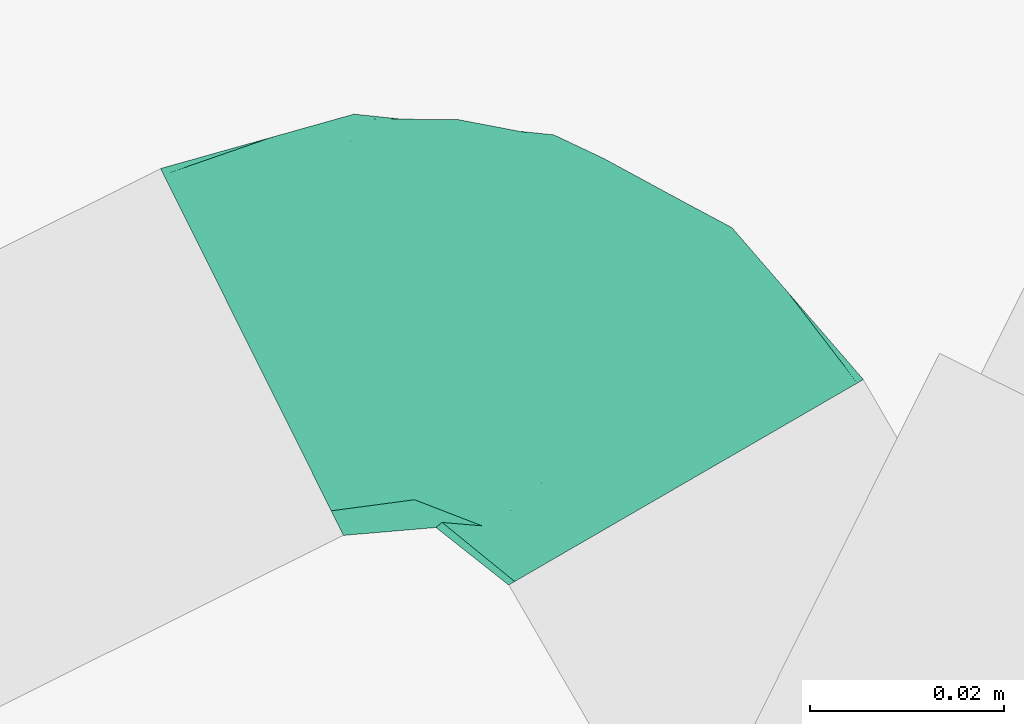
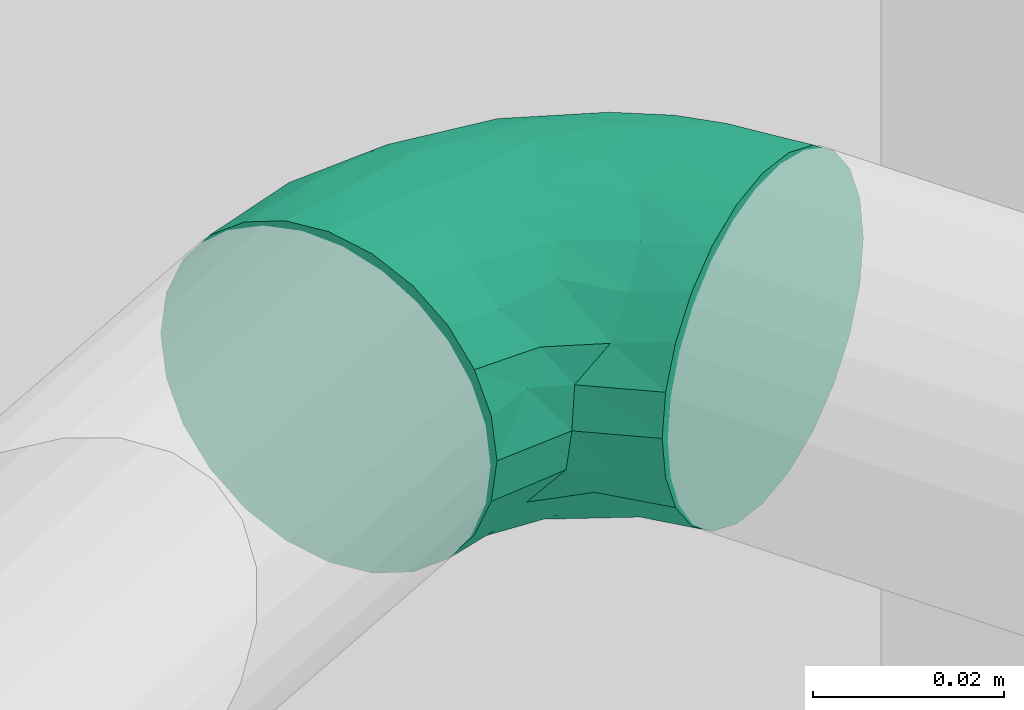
# One storey, part 33 of 34: 1 flow fitting.
"""IFC2X3 building model written with IfcOpenShell, lengths in metres."""

from ifc_helpers import new_model, entity, si_unit, converted_unit, derived_unit, direction, frame, origin, place, context, subcontext, project, spatial, faceted_brep, source, transform, mapped, type_object, type_shapes, element, save


model = new_model("IFC2X3")

# Units and contexts
model_context = context("Model", 3, precision=1e-05, world=origin(), true_north=direction((0.894925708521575, 0.446215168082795)))
context_of_model = context(None, 3, precision=1e-05, world=origin(), true_north=direction((0.894925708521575, 0.446215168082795)))
body_context = subcontext(model_context, "Body", "Model", "MODEL_VIEW")
ifc_project = project(units=[si_unit("LENGTHUNIT", "METRE"), si_unit("AREAUNIT", "SQUARE_METRE"), si_unit("VOLUMEUNIT", "CUBIC_METRE"), converted_unit("PLANEANGLEUNIT", "DEGREE", entity("IfcRatioMeasure", 0.0174532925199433), si_unit("PLANEANGLEUNIT", "RADIAN"), dimensions=[0, 0, 0, 0, 0, 0, 0]), si_unit("MASSUNIT", "GRAM", prefix="KILO"), si_unit("TIMEUNIT", "SECOND"), si_unit("FREQUENCYUNIT", "HERTZ"), si_unit("THERMODYNAMICTEMPERATUREUNIT", "DEGREE_CELSIUS"), derived_unit("THERMALTRANSMITTANCEUNIT", [(si_unit("MASSUNIT", "GRAM", prefix="KILO"), 1), (si_unit("THERMODYNAMICTEMPERATUREUNIT", "KELVIN"), -1), (si_unit("TIMEUNIT", "SECOND"), -3)]), derived_unit("VOLUMETRICFLOWRATEUNIT", [(si_unit("LENGTHUNIT", "METRE"), 3), (si_unit("TIMEUNIT", "SECOND"), -1)]), si_unit("ELECTRICCURRENTUNIT", "AMPERE"), si_unit("ELECTRICVOLTAGEUNIT", "VOLT"), si_unit("POWERUNIT", "WATT"), si_unit("FORCEUNIT", "NEWTON", prefix="KILO"), si_unit("ILLUMINANCEUNIT", "LUX"), si_unit("LUMINOUSFLUXUNIT", "LUMEN"), si_unit("LUMINOUSINTENSITYUNIT", "CANDELA"), si_unit("PRESSUREUNIT", "PASCAL")], contexts=[model_context, context_of_model])

# Site, building, storey
site_placement = place(None, frame((218.228324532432, 584.720189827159, 0.0), z_axis=(0.0, 0.0, 1.0), x_axis=(0.446215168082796, 0.894925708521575, 0.0)))
site = spatial("IfcSite", under=ifc_project, at=site_placement, Name="Default", CompositionType="ELEMENT")
building_placement = place(site_placement, origin())
building = spatial("IfcBuilding", under=site, at=building_placement, CompositionType="ELEMENT")
storey_placement = place(building_placement, frame((0.0, 0.0, 8.61)))
storey = spatial("IfcBuildingStorey", under=building, at=storey_placement, Name="2 - Piano Secondo", CompositionType="ELEMENT", Elevation=8.61)

# Flow fitting
pipe_fitting_type = type_object("IfcPipeFittingType", Name="Standard", PredefinedType="NOTDEFINED")
shared_shape = source(origin(), body_context, "Body", "Brep", [
    faceted_brep([(-0.0319999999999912, 0.00546108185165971, -0.0203810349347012), (-0.0319999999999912, 0.0, -0.0211000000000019), (-0.0319999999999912, -0.00546108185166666, -0.0203810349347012), (-0.0319999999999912, -0.0105500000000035, -0.0182731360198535), (-0.0319999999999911, -0.0149199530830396, -0.0149199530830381), (-0.0319999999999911, -0.0182731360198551, -0.0105500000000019), (-0.0319999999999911, -0.0203810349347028, -0.00546108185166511), (-0.0319999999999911, -0.0211000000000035, 0.0), (-0.0319999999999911, -0.0203810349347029, 0.00546108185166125), (-0.0319999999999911, -0.0182731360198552, 0.0105499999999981), (-0.0319999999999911, -0.0149199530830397, 0.0149199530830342), (-0.0319999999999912, -0.0105500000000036, 0.0182731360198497), (-0.0319999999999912, -0.00546108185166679, 0.0203810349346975), (-0.0319999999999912, 0.0, 0.0210999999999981), (-0.0319999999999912, 0.00546108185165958, 0.0203810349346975), (-0.0319999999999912, 0.0105499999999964, 0.0182731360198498), (-0.0319999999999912, 0.0149199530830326, 0.0149199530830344), (-0.0319999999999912, 0.0182731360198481, 0.0105499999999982), (-0.0319999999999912, 0.0203810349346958, 0.00546108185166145), (-0.0319999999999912, 0.0210999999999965, 0.0), (-0.0319999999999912, 0.0203810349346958, -0.00546108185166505), (-0.0319999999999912, 0.0182731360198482, -0.0105500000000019), (-0.0319999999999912, 0.0149199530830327, -0.014919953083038), (-0.0319999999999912, 0.0105499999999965, -0.0182731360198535), (0.00199613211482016, 0.0319376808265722, -0.0211000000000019), (-0.00345431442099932, 0.0322783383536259, -0.0203810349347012), (-0.00853332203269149, 0.0325957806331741, -0.0182731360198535), (-0.0128947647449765, 0.0328683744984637, -0.014919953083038), (-0.0162414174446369, 0.0330775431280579, -0.0105500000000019), (-0.0183452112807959, 0.0332090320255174, -0.00546108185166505), (-0.0190627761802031, 0.033253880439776, 0.0), (-0.0183452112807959, 0.0332090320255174, 0.00546108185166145), (-0.0162414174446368, 0.0330775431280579, 0.0105499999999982), (-0.0128947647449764, 0.0328683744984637, 0.0149199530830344), (-0.00853332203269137, 0.0325957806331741, 0.0182731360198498), (-0.00345431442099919, 0.0322783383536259, 0.0203810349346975), (0.00199613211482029, 0.0319376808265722, 0.0210999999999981), (0.00744657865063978, 0.0315970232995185, 0.0203810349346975), (0.0125255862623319, 0.0312795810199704, 0.0182731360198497), (0.0168870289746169, 0.0310069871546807, 0.0149199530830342), (0.0202336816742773, 0.0307978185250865, 0.0105499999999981), (0.0223374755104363, 0.030666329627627, 0.00546108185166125), (0.0230550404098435, 0.0306214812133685, 0.0), (0.0223374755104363, 0.030666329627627, -0.00546108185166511), (0.0202336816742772, 0.0307978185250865, -0.0105500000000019), (0.0168870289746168, 0.0310069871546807, -0.0149199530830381), (0.0125255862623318, 0.0312795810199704, -0.0182731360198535), (0.00744657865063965, 0.0315970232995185, -0.0203810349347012), (-0.0231105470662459, -0.0167746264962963, 0.0117195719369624), (-0.0202205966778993, -0.0127924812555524, 0.0155606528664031), (-0.0218440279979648, -0.0191621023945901, 0.0), (-0.0205793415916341, -0.0189043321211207, 0.00635068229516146), (-0.0138861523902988, -0.016866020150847, 0.00674931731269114), (0.011746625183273, 0.0032750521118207, 0.00822294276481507), (0.00500188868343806, -0.00384616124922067, 0.00935833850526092), (0.00751533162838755, -0.00365668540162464, 0.00471988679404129), (0.0140289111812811, 0.0193832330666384, 0.0155606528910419), (0.0092276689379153, 0.00715376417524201, 0.0146660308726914), (0.0157005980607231, 0.0122511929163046, 0.0103480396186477), (-0.0227027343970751, -0.00840549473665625, 0.0188848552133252), (-0.0234420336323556, 0.00241157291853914, 0.0210614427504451), (-0.0217659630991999, 0.00822713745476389, 0.0201456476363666), (-0.01131964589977, 0.0253838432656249, 0.0176022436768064), (-0.00726986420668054, -0.0144805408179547, 0.00532536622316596), (-0.00295923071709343, -0.0116828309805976, 0.0), (0.00110783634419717, -0.00936134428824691, 0.00481616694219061), (-0.0159447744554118, -0.00925015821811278, 0.0172647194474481), (-0.0246282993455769, 0.0128810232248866, 0.0176022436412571), (-0.0254965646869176, 0.0170522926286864, 0.0139262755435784), (-0.0238100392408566, -0.00318990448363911, 0.0207018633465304), (-0.0229942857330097, 0.0238023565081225, 0.00534942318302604), (-0.0253606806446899, 0.0204139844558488, 0.00941139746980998), (-0.00215389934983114, 0.00845491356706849, 0.0204329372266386), (-0.00541541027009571, 0.00145997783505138, 0.0195225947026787), (0.00174822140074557, 0.00677998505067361, 0.0189230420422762), (-0.0187661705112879, 0.0199756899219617, 0.0151031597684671), (-0.0195462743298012, 0.0250908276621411, 0.00974723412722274), (-0.0172343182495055, 0.0129493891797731, 0.0193996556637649), (-0.0115919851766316, 0.0123391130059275, 0.0206661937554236), (-0.0049067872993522, 0.0159282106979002, 0.0210493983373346), (-0.00811578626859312, 0.00643052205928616, 0.0209559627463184), (-0.0132067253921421, -0.0149058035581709, 0.0103480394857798), (-0.00347917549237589, -0.0103041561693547, 0.00981039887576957), (-0.00771544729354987, -0.0087634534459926, 0.0146660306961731), (-0.00685337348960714, 0.0222367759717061, 0.0201456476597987), (-0.000944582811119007, 0.0235468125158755, 0.0210614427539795), (0.0181835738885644, 0.0220191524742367, 0.011719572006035), (0.0201512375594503, 0.019360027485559, 0.00635068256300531), (0.00466894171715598, 0.0235646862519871, 0.0207018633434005), (-0.0124693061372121, 0.0182076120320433, 0.0191281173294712), (0.017919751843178, 0.0105908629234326, 0.0), (0.0204873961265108, 0.0206061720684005, 0.0), (0.000283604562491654, -0.00466708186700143, 0.0133278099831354), (8.57304771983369e-05, -9.12567316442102e-05, 0.0167750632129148), (-0.0156077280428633, 0.0058877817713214, 0.0210489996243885), (0.00980530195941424, 0.0221341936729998, 0.0188848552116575), (0.00710821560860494, 0.0135326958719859, 0.018521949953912), (-0.0196044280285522, 0.027806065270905, 0.00617082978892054), (-0.0154286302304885, 0.0265106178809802, 0.0139262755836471), (-0.0231246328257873, 0.0246150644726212, 0.0), (0.0164149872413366, 0.00900792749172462, 0.00519211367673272), (-0.0104003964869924, -0.00521574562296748, 0.0181485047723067), (0.00629836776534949, 0.000564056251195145, 0.0127411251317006), (0.0107544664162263, 0.00506386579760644, 0.0116404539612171), (0.00243045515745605, 0.0143498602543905, 0.0203400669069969), (-0.0144735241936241, -0.00153059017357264, 0.0203400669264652), (-0.0171256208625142, 0.0171188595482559, 0.0176801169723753), (-0.0116880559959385, -0.0172242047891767, 0.0), (0.00576959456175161, -0.0061414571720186, 0.0), (0.0118446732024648, 0.002224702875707, 0.0), (0.0121339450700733, 0.00167471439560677, 0.00418745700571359), (-0.0202205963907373, -0.0127924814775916, -0.0155606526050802), (-0.0234420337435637, 0.00241157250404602, -0.0210614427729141), (-0.0217659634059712, 0.0082271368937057, -0.0201456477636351), (-0.0238226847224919, 0.0210733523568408, -0.00974723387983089), (-0.0187661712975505, 0.0199756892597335, -0.0151031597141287), (-0.0254965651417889, 0.0170522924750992, -0.013926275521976), (-0.0113196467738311, 0.0253838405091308, -0.017602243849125), (-0.00685337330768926, 0.0222367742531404, -0.0201456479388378), (-0.000944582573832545, 0.0235468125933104, -0.0210614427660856), (-0.0265290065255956, 0.0213007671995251, -0.00617082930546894), (0.0075153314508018, -0.00365668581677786, -0.00471988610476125), (0.00110783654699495, -0.00936134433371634, -0.00481616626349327), (-0.00830408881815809, 0.0026771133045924, -0.0204329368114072), (-0.00111932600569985, 0.00549593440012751, -0.0195225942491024), (-0.00687583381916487, -0.00132188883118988, -0.0189230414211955), (-0.0246282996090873, 0.0128810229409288, -0.0176022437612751), (-0.020579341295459, -0.0189043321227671, -0.00635068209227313), (-0.0231105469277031, -0.0167746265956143, -0.0117195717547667), (-0.00726986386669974, -0.0144805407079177, -0.00532536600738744), (-0.00347917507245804, -0.0103041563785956, -0.00981039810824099), (-0.0135423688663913, -0.0174469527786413, -0.00431479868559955), (-0.00771544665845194, -0.00876345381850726, -0.014666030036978), (8.57313633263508e-05, -9.12573533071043e-05, -0.0167750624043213), (0.000283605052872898, -0.00466708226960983, -0.0133278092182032), (0.0201512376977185, 0.0193600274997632, -0.00635068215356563), (-0.0227027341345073, -0.00840549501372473, -0.0188848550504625), (-0.0238100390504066, -0.00318990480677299, -0.0207018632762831), (-0.0132067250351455, -0.0149058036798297, -0.0103480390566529), (-0.0118491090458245, 0.018008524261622, -0.0193996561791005), (-0.0115919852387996, 0.0123391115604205, -0.0206661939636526), (-0.0223216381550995, 0.0244342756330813, -0.00534942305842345), (-0.0139497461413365, -0.00625021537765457, -0.0185219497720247), (-0.0173943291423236, 0.0135807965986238, -0.0191281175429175), (-0.0187922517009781, 0.0265846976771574, -0.00941139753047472), (-0.0154286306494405, 0.0265106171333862, -0.0139262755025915), (0.0181835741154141, 0.0220191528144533, -0.0117195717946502), (0.0140289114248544, 0.0193832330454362, -0.0155606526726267), (0.0102267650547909, 0.0153367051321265, -0.0172647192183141), (0.00980530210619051, 0.0221341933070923, -0.0188848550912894), (0.00466894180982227, 0.023564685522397, -0.0207018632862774), (-0.0155911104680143, 0.00589081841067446, -0.0210493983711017), (-0.00591174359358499, 0.00850110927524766, -0.0209559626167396), (0.0157005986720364, 0.0122511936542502, -0.0103480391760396), (-0.00490271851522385, 0.0159446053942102, -0.0210489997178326), (0.00922766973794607, 0.00715376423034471, -0.0146660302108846), (0.0164149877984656, 0.00900792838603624, -0.00519211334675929), (0.00500188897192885, -0.00384616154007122, -0.0093583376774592), (0.00629836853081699, 0.000564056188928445, -0.0127411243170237), (0.0107544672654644, 0.00506386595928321, -0.0116404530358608), (0.0117466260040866, 0.0032750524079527, -0.00822294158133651), (0.00585435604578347, 0.0100547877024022, -0.018148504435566), (-0.0144735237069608, -0.00153059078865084, -0.020340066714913), (0.00243045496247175, 0.0143498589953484, -0.0203400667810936), (-0.0160172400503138, 0.0181601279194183, -0.0176801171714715), (0.0121339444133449, 0.00167471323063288, -0.00418745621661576)], [[[0, 1, 2, 3, 4, 5, 6, 7, 8, 9, 10, 11, 12, 13, 14, 15, 16, 17, 18, 19, 20, 21, 22, 23]], [[24, 25, 26, 27, 28, 29, 30, 31, 32, 33, 34, 35, 36, 37, 38, 39, 40, 41, 42, 43, 44, 45, 46, 47]], [[10, 48, 49]], [[8, 7, 50]], [[48, 51, 52]], [[53, 54, 55]], [[48, 10, 9]], [[8, 51, 9]], [[56, 57, 58]], [[49, 11, 10]], [[49, 59, 11]], [[14, 60, 61]], [[34, 33, 62]], [[63, 64, 65]], [[66, 59, 49]], [[67, 16, 15]], [[56, 39, 38]], [[68, 17, 16]], [[69, 13, 12]], [[67, 15, 61]], [[14, 13, 60]], [[70, 18, 71]], [[72, 73, 74]], [[19, 18, 70]], [[75, 76, 71]], [[77, 61, 78]], [[14, 61, 15]], [[79, 78, 80]], [[81, 82, 83]], [[84, 79, 85]], [[58, 86, 56]], [[85, 35, 84]], [[40, 87, 41]], [[37, 36, 88]], [[84, 62, 89]], [[87, 90, 91]], [[92, 93, 83]], [[39, 86, 40]], [[61, 60, 94]], [[87, 40, 86]], [[82, 54, 92]], [[95, 88, 96]], [[11, 59, 12]], [[97, 32, 31]], [[63, 82, 81]], [[76, 75, 98]], [[83, 49, 81]], [[70, 97, 99]], [[91, 41, 87]], [[35, 34, 84]], [[17, 71, 18]], [[34, 62, 84]], [[100, 87, 58]], [[33, 32, 98]], [[85, 36, 35]], [[99, 97, 30]], [[95, 38, 37]], [[95, 56, 38]], [[93, 73, 101]], [[8, 50, 51]], [[54, 65, 55]], [[102, 54, 103]], [[56, 95, 96]], [[93, 92, 102]], [[98, 62, 33]], [[84, 89, 78]], [[79, 84, 78]], [[88, 85, 104]], [[69, 60, 13]], [[105, 80, 94]], [[77, 78, 89]], [[67, 106, 68]], [[66, 83, 101]], [[107, 51, 50]], [[69, 59, 105]], [[71, 17, 68]], [[70, 71, 76]], [[88, 95, 37]], [[42, 41, 91]], [[104, 74, 96]], [[76, 98, 32]], [[62, 98, 75]], [[67, 68, 16]], [[71, 68, 75]], [[51, 48, 9]], [[49, 48, 81]], [[56, 86, 39]], [[87, 86, 58]], [[85, 88, 36]], [[88, 104, 96]], [[59, 69, 12]], [[60, 69, 105]], [[75, 106, 62]], [[106, 67, 77]], [[94, 78, 61]], [[104, 85, 79]], [[73, 80, 105]], [[79, 80, 72]], [[97, 70, 76]], [[70, 99, 19]], [[106, 77, 89]], [[67, 61, 77]], [[105, 94, 60]], [[78, 94, 80]], [[101, 73, 105]], [[74, 73, 93]], [[59, 101, 105]], [[93, 101, 83]], [[57, 74, 93]], [[72, 74, 104]], [[74, 57, 96]], [[56, 96, 57]], [[62, 106, 89]], [[106, 75, 68]], [[63, 52, 107]], [[54, 82, 65]], [[52, 63, 81]], [[82, 63, 65]], [[107, 64, 63]], [[64, 108, 65]], [[65, 108, 55]], [[53, 100, 58]], [[109, 90, 100]], [[55, 108, 109]], [[110, 53, 55]], [[102, 103, 57]], [[100, 53, 110]], [[87, 100, 90]], [[79, 72, 104]], [[73, 72, 80]], [[82, 92, 83]], [[102, 92, 54]], [[103, 54, 53]], [[93, 102, 57]], [[53, 58, 103]], [[58, 57, 103]], [[32, 97, 76]], [[30, 97, 31]], [[83, 66, 49]], [[101, 59, 66]], [[48, 52, 81]], [[107, 52, 51]], [[55, 109, 110]], [[100, 110, 109]], [[111, 4, 3]], [[112, 0, 113]], [[113, 0, 23]], [[112, 1, 0]], [[114, 115, 116]], [[117, 26, 118]], [[116, 22, 21]], [[25, 119, 118]], [[20, 120, 21]], [[121, 108, 122]], [[123, 124, 125]], [[113, 23, 126]], [[127, 5, 128]], [[129, 130, 122]], [[131, 50, 127]], [[132, 133, 134]], [[5, 4, 128]], [[43, 91, 135]], [[111, 3, 136]], [[23, 22, 126]], [[50, 6, 127]], [[6, 5, 127]], [[137, 2, 1]], [[128, 111, 138]], [[139, 118, 140]], [[99, 120, 19]], [[99, 141, 120]], [[111, 136, 142]], [[30, 29, 141]], [[136, 137, 142]], [[113, 126, 143]], [[114, 144, 115]], [[145, 28, 27]], [[122, 64, 129]], [[118, 26, 25]], [[45, 146, 147]], [[111, 132, 138]], [[117, 27, 26]], [[148, 149, 147]], [[24, 47, 150]], [[45, 147, 46]], [[130, 132, 134]], [[132, 130, 138]], [[44, 146, 45]], [[151, 140, 152]], [[149, 46, 147]], [[153, 146, 135]], [[25, 24, 119]], [[42, 91, 43]], [[136, 3, 2]], [[28, 144, 29]], [[43, 135, 44]], [[118, 119, 154]], [[113, 151, 112]], [[155, 147, 153]], [[144, 141, 29]], [[46, 149, 47]], [[156, 135, 90]], [[157, 134, 158]], [[157, 158, 159]], [[160, 157, 159]], [[133, 124, 161]], [[116, 126, 22]], [[113, 143, 140]], [[151, 113, 140]], [[137, 112, 162]], [[150, 119, 24]], [[163, 152, 154]], [[139, 140, 143]], [[117, 164, 145]], [[144, 28, 145]], [[141, 144, 114]], [[137, 136, 2]], [[7, 6, 50]], [[162, 125, 142]], [[148, 155, 161]], [[90, 135, 91]], [[150, 149, 163]], [[114, 116, 21]], [[126, 116, 115]], [[117, 145, 27]], [[144, 145, 115]], [[111, 128, 4]], [[127, 128, 138]], [[135, 146, 44]], [[147, 146, 153]], [[112, 137, 1]], [[137, 162, 142]], [[149, 150, 47]], [[119, 150, 163]], [[115, 164, 126]], [[164, 117, 139]], [[154, 140, 118]], [[162, 112, 151]], [[124, 152, 163]], [[151, 152, 123]], [[120, 141, 114]], [[141, 99, 30]], [[164, 139, 143]], [[117, 118, 139]], [[163, 154, 119]], [[140, 154, 152]], [[161, 124, 163]], [[125, 124, 133]], [[149, 161, 163]], [[133, 161, 155]], [[132, 125, 133]], [[123, 125, 162]], [[125, 132, 142]], [[111, 142, 132]], [[126, 164, 143]], [[164, 115, 145]], [[122, 157, 121]], [[138, 129, 131]], [[64, 107, 129]], [[138, 130, 129]], [[131, 129, 107]], [[157, 122, 130]], [[108, 64, 122]], [[160, 121, 157]], [[165, 121, 160]], [[109, 165, 156]], [[109, 108, 121]], [[160, 153, 156]], [[135, 156, 153]], [[109, 156, 90]], [[151, 123, 162]], [[124, 123, 152]], [[158, 133, 155]], [[130, 134, 157]], [[133, 158, 134]], [[158, 155, 159]], [[155, 153, 159]], [[153, 160, 159]], [[21, 120, 114]], [[19, 120, 20]], [[155, 148, 147]], [[161, 149, 148]], [[50, 131, 107]], [[138, 131, 127]], [[156, 165, 160]], [[109, 121, 165]]]),
])
type_shapes(pipe_fitting_type, [shared_shape])
flow_fitting_placement = place(storey_placement, frame((68.8640564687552, -7.71146031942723, 0.850000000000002), z_axis=(0.0, 0.0, 1.0), x_axis=(0.550824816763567, 0.834620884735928, 0.0)))
element("IfcFlowFitting", 1, at=flow_fitting_placement, inside=storey, type_object=pipe_fitting_type, Name="M_Gomito - Saldato - Generico:Standard", ObjectType="Standard", context=body_context, shape_type="MappedRepresentation", body=[
    mapped(shared_shape, transform((0.0, 0.0, 0.0), scale=1.0)),
])

save(model, "model.ifc")
